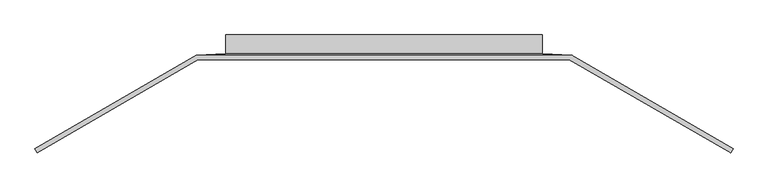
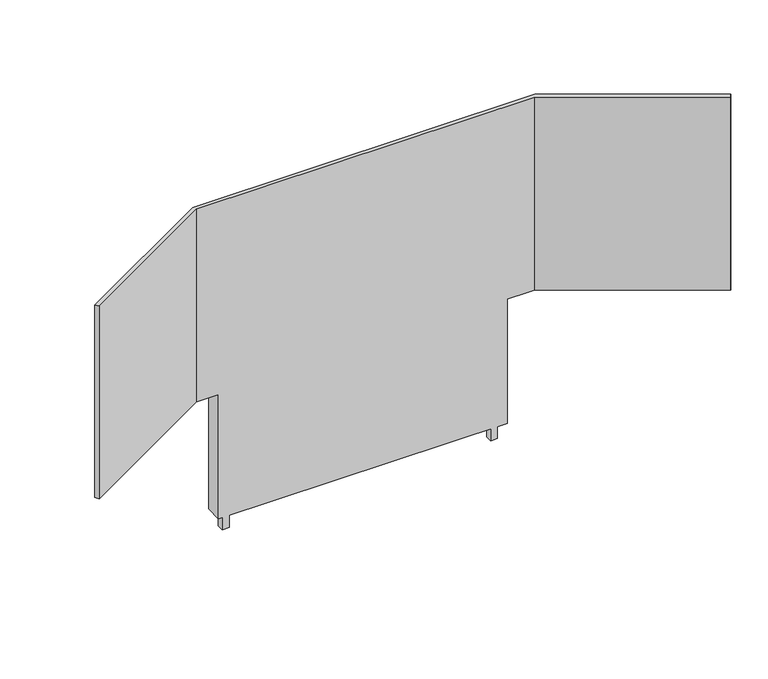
"""IFC4 building model written with IfcOpenShell, lengths in millimetres: geographic element geometry, Enscape AssetDefinition - Whiteboard 007 Decals : Enscape AssetDefinition - Whiteboard 007 Decals."""

from ifc_helpers import new_model, si_unit, origin, place, context, project, spatial, triangles, source, transform, mapped, element, save


def geographic_element_434369b6(model_context):
    return source(origin(), model_context, "Body", "Tessellation", [
        triangles([(0.0, -132.0000006, 899.8660034), (-1859.4250202, -632.0000135, 2099.9998707), (-1859.4250202, -632.0000135, 899.8660034), (-998.9539959, -132.0000006, 899.8660034), (-1006.6000408, -109.999999, 899.8660034), (-850.0000065, -100.0000008, 899.8660034), (-998.9539959, -132.0000006, 2099.9998707), (-1872.6249413, -610.0000483, 899.8660034), (-1006.6000408, -109.999999, 1499.9330097), (-1006.6000408, -109.999999, 2099.9998707), (-1872.6249413, -610.0000483, 2099.9998707), (1006.6000408, -109.999999, 2099.9998707), (850.0000065, -100.0000008, 1600.0000122), (-850.0000065, -100.0000008, 1600.0000122), (-850.0000065, 0.0, 1600.0000122), (850.0000065, 0.0, 100.0000008), (-850.0000065, 0.0, 100.0000008), (850.0000065, 0.0, 1600.0000122), (850.0000065, -100.0000008, 899.8660034), (809.9999771, -29.9999993, 100.0000008), (769.9999477, -29.9999993, 100.0000008), (769.9999477, -70.0000014, 0.0), (769.9999477, -70.0000014, 100.0000008), (769.9999477, -29.9999993, 0.0), (809.9999771, -29.9999993, 0.0), (809.9999771, -70.0000014, 0.0), (809.9999771, -70.0000014, 100.0000008), (-769.9999477, -70.0000014, 100.0000008), (-809.9999771, -70.0000014, 0.0), (-769.9999477, -70.0000014, 0.0), (-809.9999771, -70.0000014, 100.0000008), (-850.0000065, -100.0000008, 100.0000008), (-809.9999771, -29.9999993, 100.0000008), (-769.9999477, -29.9999993, 100.0000008), (-769.9999477, -29.9999993, 0.0), (-809.9999771, -29.9999993, 0.0), (850.0000065, -100.0000008, 100.0000008), (993.3819523, -132.0000006, 2099.9998707), (993.3819523, -132.0000006, 899.8660034), (1859.4250202, -632.0000135, 2099.9998707), (1859.4250202, -632.0000135, 899.8660034), (1872.6249413, -610.0000483, 899.8660034), (1872.6249413, -610.0000483, 2099.9998707), (1006.6000408, -109.999999, 899.8660034)], [[12, 43, 42], [12, 42, 44], [44, 42, 41], [42, 43, 40], [12, 40, 43], [42, 40, 41], [12, 38, 40], [40, 38, 39], [40, 39, 41], [44, 41, 39], [39, 19, 44], [39, 1, 19], [39, 38, 1], [6, 37, 19], [1, 6, 19], [33, 34, 35], [17, 34, 33], [33, 35, 36], [34, 30, 35], [30, 36, 35], [30, 29, 36], [29, 33, 36], [29, 31, 33], [31, 17, 33], [17, 32, 6], [31, 32, 17], [6, 32, 37], [29, 30, 28], [34, 28, 30], [29, 28, 31], [32, 31, 28], [28, 37, 32], [28, 23, 37], [34, 23, 28], [23, 26, 27], [37, 23, 27], [20, 27, 26], [20, 26, 25], [24, 20, 25], [23, 22, 26], [25, 26, 22], [25, 22, 24], [34, 21, 23], [24, 21, 20], [22, 23, 21], [22, 21, 24], [16, 21, 34], [27, 20, 16], [16, 19, 37], [16, 34, 17], [27, 16, 37], [16, 20, 21], [16, 18, 19], [15, 18, 16], [17, 6, 15], [15, 16, 17], [44, 19, 13], [15, 13, 18], [18, 13, 19], [44, 13, 12], [15, 14, 13], [15, 6, 14], [13, 14, 12], [10, 38, 12], [14, 10, 12], [10, 7, 38], [1, 38, 7], [11, 7, 10], [6, 9, 14], [14, 9, 10], [11, 10, 9], [6, 5, 9], [8, 11, 9], [9, 5, 8], [11, 8, 3], [11, 2, 7], [11, 3, 2], [4, 3, 8], [4, 7, 2], [4, 5, 6], [1, 7, 4], [4, 8, 5], [4, 2, 3], [4, 6, 1]]),
    ])


if __name__ == "__main__":
    model = new_model("IFC4")
    model_context = context("Model", 3, world=origin())
    ifc_project = project(units=[si_unit("LENGTHUNIT", "METRE", prefix="MILLI")], contexts=[model_context])
    site = spatial("IfcSite", under=ifc_project)
    building = spatial("IfcBuilding", under=site)
    placement = place(None, origin())
    geographic_element_shape = geographic_element_434369b6(model_context)
    element("IfcGeographicElement", 1, ObjectType="Enscape AssetDefinition - Whiteboard 007 Decals : Enscape AssetDefinition - Whiteboard 007 Decals", at=placement, inside=building, context=model_context, shape_type="MappedRepresentation", body=[
        mapped(geographic_element_shape, transform((0.0, 0.0, 0.0), x_axis=(1.0, 0.0, 0.0), y_axis=(0.0, 1.0, 0.0), z_axis=(0.0, 0.0, 1.0))),
    ])
    save(model, "model.ifc")
